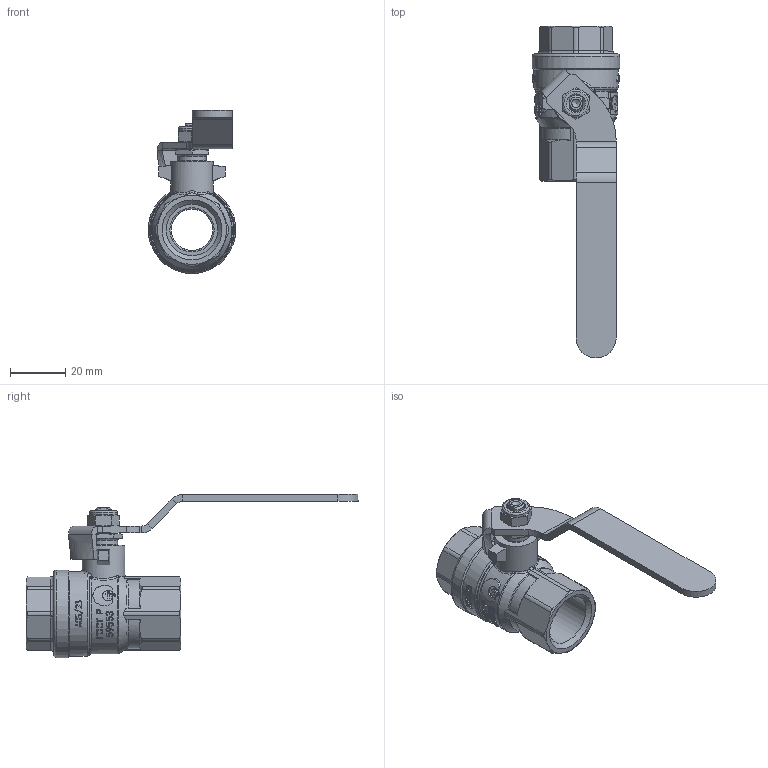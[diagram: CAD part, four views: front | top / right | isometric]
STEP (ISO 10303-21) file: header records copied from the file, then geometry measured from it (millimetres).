
FILE_DESCRIPTION(('STEP AP203'), '1');
FILE_NAME('VT.417.N.04', '2026-04-29T10:15:13', ('User'), ('Vesta'), 'C3D Converter', 'C3D Toolkit', '');
FILE_SCHEMA(('CONFIG_CONTROL_DESIGN'));
Length unit declared in the file: millimetre
Products named in the file (1): ВР.491812.006.000-01
Bounding box: 31.6 x 120.02 x 58.98 mm (x, y, z)
Volume: 28305.8 mm3; surface area: 14000.9 mm2
Topology: 1 solids, 1 shells, 1225 faces, 3386 edges, 2219 vertices
Faces by surface type: plane 701, extrusion 316, cylinder 106, cone 54, torus 28, bspline 20
Full cylindrical faces by diameter (mm): 0.644 x1, 4 x1, 9.3 x1, 10 x1, 10.2 x1, 15 x5, 15.5 x1, 18.632 x2, 30.6 x1, 31.6 x1
Entity records: 49630 total; most frequent: CARTESIAN_POINT 22244, ORIENTED_EDGE 6686, DIRECTION 4235, EDGE_CURVE 3343, VERTEX_POINT 2213, VECTOR 1619, EDGE_LOOP 1320, AXIS2_PLACEMENT_3D 1308
